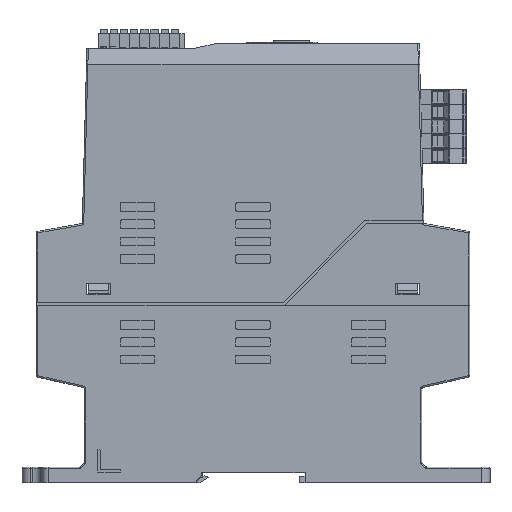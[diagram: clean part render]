
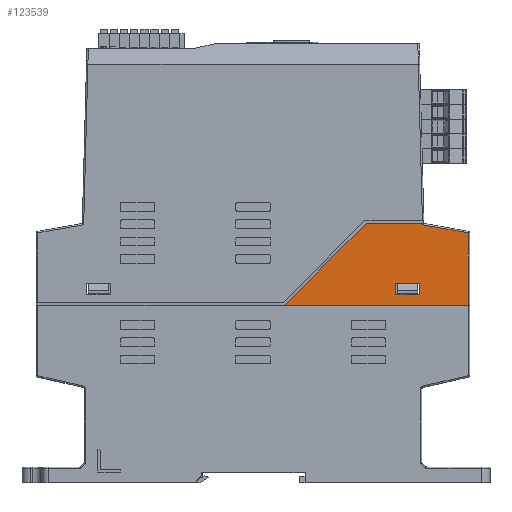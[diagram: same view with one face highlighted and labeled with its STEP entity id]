
A CAD part, left-side view. The second image highlights one B-rep face of the part: STEP entity #123539.
In plain terms, the highlighted planar face has unit normal (-1, 0, 0).
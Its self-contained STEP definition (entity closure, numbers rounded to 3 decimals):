
#115035 = VERTEX_POINT('',#115036);
#115036 = CARTESIAN_POINT('',(-27.5,-58.629,
    95.799));
#115045 = EDGE_CURVE('',#115035,#115046,#115048,.T.);
#115046 = VERTEX_POINT('',#115047);
#115047 = CARTESIAN_POINT('',(-27.5,-58.64,
    95.378));
#115048 = LINE('',#115049,#115050);
#115049 = CARTESIAN_POINT('',(-27.5,-58.629,
    95.799));
#115050 = VECTOR('',#115051,1.);
#115051 = DIRECTION('',(0.,-0.026,
    -1.));
#115075 = EDGE_CURVE('',#115046,#115076,#115078,.T.);
#115076 = VERTEX_POINT('',#115077);
#115077 = CARTESIAN_POINT('',(-27.5,-74.5,
    92.581));
#115078 = LINE('',#115079,#115080);
#115079 = CARTESIAN_POINT('',(-27.5,-58.64,
    95.378));
#115080 = VECTOR('',#115081,1.);
#115081 = DIRECTION('',(0.,-0.985,
    -0.174));
#123114 = EDGE_CURVE('',#123115,#123117,#123119,.T.);
#123115 = VERTEX_POINT('',#123116);
#123116 = CARTESIAN_POINT('',(-27.5,-74.5,67.5));
#123117 = VERTEX_POINT('',#123118);
#123118 = CARTESIAN_POINT('',(-27.5,-10.83,67.5));
#123119 = LINE('',#123120,#123121);
#123120 = CARTESIAN_POINT('',(-27.5,-74.5,67.5));
#123121 = VECTOR('',#123122,1.);
#123122 = DIRECTION('',(0.,1.,0.));
#123539 = ADVANCED_FACE('',(#123540,#123565),#123599,.T.);
#123540 = FACE_BOUND('',#123541,.T.);
#123541 = EDGE_LOOP('',(#123542,#123543,#123549,#123550,#123551,#123559)
  );
#123542 = ORIENTED_EDGE('',*,*,#123114,.F.);
#123543 = ORIENTED_EDGE('',*,*,#123544,.T.);
#123544 = EDGE_CURVE('',#123115,#115076,#123545,.T.);
#123545 = LINE('',#123546,#123547);
#123546 = CARTESIAN_POINT('',(-27.5,-74.5,67.5));
#123547 = VECTOR('',#123548,1.);
#123548 = DIRECTION('',(0.,0.,1.));
#123549 = ORIENTED_EDGE('',*,*,#115075,.F.);
#123550 = ORIENTED_EDGE('',*,*,#115045,.F.);
#123551 = ORIENTED_EDGE('',*,*,#123552,.F.);
#123552 = EDGE_CURVE('',#123553,#115035,#123555,.T.);
#123553 = VERTEX_POINT('',#123554);
#123554 = CARTESIAN_POINT('',(-27.5,-39.129,95.799));
#123555 = LINE('',#123556,#123557);
#123556 = CARTESIAN_POINT('',(-27.5,-39.129,95.799));
#123557 = VECTOR('',#123558,1.);
#123558 = DIRECTION('',(0.,-1.,0.));
#123559 = ORIENTED_EDGE('',*,*,#123560,.F.);
#123560 = EDGE_CURVE('',#123117,#123553,#123561,.T.);
#123561 = LINE('',#123562,#123563);
#123562 = CARTESIAN_POINT('',(-27.5,-10.83,67.5));
#123563 = VECTOR('',#123564,1.);
#123564 = DIRECTION('',(0.,-0.707,0.707));
#123565 = FACE_BOUND('',#123566,.F.);
#123566 = EDGE_LOOP('',(#123567,#123577,#123585,#123593));
#123567 = ORIENTED_EDGE('',*,*,#123568,.F.);
#123568 = EDGE_CURVE('',#123569,#123571,#123573,.T.);
#123569 = VERTEX_POINT('',#123570);
#123570 = CARTESIAN_POINT('',(-27.5,-57.6,75.2));
#123571 = VERTEX_POINT('',#123572);
#123572 = CARTESIAN_POINT('',(-27.5,-57.6,71.3));
#123573 = LINE('',#123574,#123575);
#123574 = CARTESIAN_POINT('',(-27.5,-57.6,75.2));
#123575 = VECTOR('',#123576,1.);
#123576 = DIRECTION('',(0.,0.,-1.));
#123577 = ORIENTED_EDGE('',*,*,#123578,.F.);
#123578 = EDGE_CURVE('',#123579,#123569,#123581,.T.);
#123579 = VERTEX_POINT('',#123580);
#123580 = CARTESIAN_POINT('',(-27.5,-49.4,75.2));
#123581 = LINE('',#123582,#123583);
#123582 = CARTESIAN_POINT('',(-27.5,-49.4,75.2));
#123583 = VECTOR('',#123584,1.);
#123584 = DIRECTION('',(0.,-1.,0.));
#123585 = ORIENTED_EDGE('',*,*,#123586,.F.);
#123586 = EDGE_CURVE('',#123587,#123579,#123589,.T.);
#123587 = VERTEX_POINT('',#123588);
#123588 = CARTESIAN_POINT('',(-27.5,-49.4,71.3));
#123589 = LINE('',#123590,#123591);
#123590 = CARTESIAN_POINT('',(-27.5,-49.4,71.3));
#123591 = VECTOR('',#123592,1.);
#123592 = DIRECTION('',(0.,0.,1.));
#123593 = ORIENTED_EDGE('',*,*,#123594,.F.);
#123594 = EDGE_CURVE('',#123571,#123587,#123595,.T.);
#123595 = LINE('',#123596,#123597);
#123596 = CARTESIAN_POINT('',(-27.5,-57.6,71.3));
#123597 = VECTOR('',#123598,1.);
#123598 = DIRECTION('',(0.,1.,0.));
#123599 = PLANE('',#123600);
#123600 = AXIS2_PLACEMENT_3D('',#123601,#123602,#123603);
#123601 = CARTESIAN_POINT('',(-27.5,75.,0.));
#123602 = DIRECTION('',(-1.,0.,0.));
#123603 = DIRECTION('',(0.,-1.,0.));
